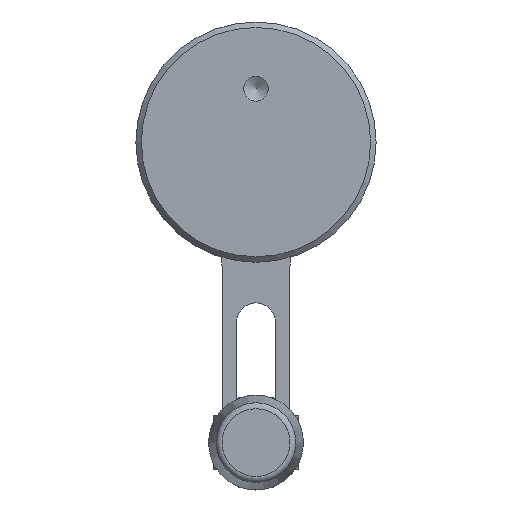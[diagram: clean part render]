
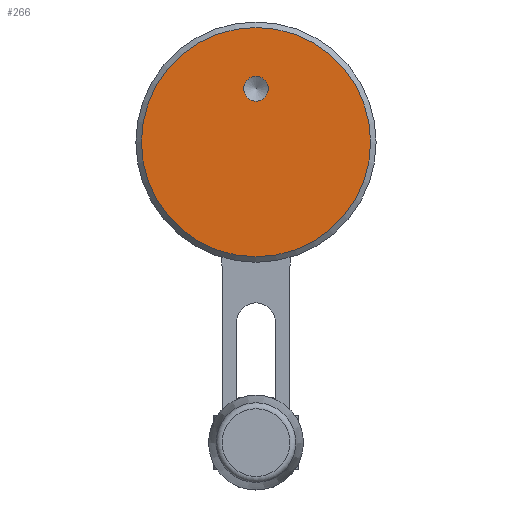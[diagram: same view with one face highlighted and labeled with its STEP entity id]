
A CAD part, front view. The second image highlights one B-rep face of the part: STEP entity #266.
In plain terms, the highlighted planar face has unit normal (0, -1, 0).
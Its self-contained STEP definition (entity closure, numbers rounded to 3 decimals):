
#266 = ADVANCED_FACE( '', ( #561, #562 ), #563, .F. );
#561 = FACE_BOUND( '', #943, .T. );
#562 = FACE_OUTER_BOUND( '', #944, .T. );
#563 = PLANE( '', #945 );
#943 = EDGE_LOOP( '', ( #1418 ) );
#944 = EDGE_LOOP( '', ( #1419 ) );
#945 = AXIS2_PLACEMENT_3D( '', #1420, #1421, #1422 );
#1418 = ORIENTED_EDGE( '', *, *, #2221, .T. );
#1419 = ORIENTED_EDGE( '', *, *, #2222, .T. );
#1420 = CARTESIAN_POINT( '', ( 19.08, 0., 0. ) );
#1421 = DIRECTION( '', ( 0., 1., 0. ) );
#1422 = DIRECTION( '', ( 0., 0., 1. ) );
#2221 = EDGE_CURVE( '', #2623, #2623, #2624, .T. );
#2222 = EDGE_CURVE( '', #2625, #2625, #2626, .T. );
#2623 = VERTEX_POINT( '', #3235 );
#2624 = CIRCLE( '', #3236, 2.067 );
#2625 = VERTEX_POINT( '', #3237 );
#2626 = CIRCLE( '', #3238, 19.08 );
#3235 = CARTESIAN_POINT( '', ( 0., 0., 10.967 ) );
#3236 = AXIS2_PLACEMENT_3D( '', #3884, #3885, #3886 );
#3237 = CARTESIAN_POINT( '', ( 0., 0., -19.08 ) );
#3238 = AXIS2_PLACEMENT_3D( '', #3887, #3888, #3889 );
#3884 = CARTESIAN_POINT( '', ( 0., 0., 8.9 ) );
#3885 = DIRECTION( '', ( 0., 1., 0. ) );
#3886 = DIRECTION( '', ( 0., 0., 1. ) );
#3887 = CARTESIAN_POINT( '', ( 0., 0., 0. ) );
#3888 = DIRECTION( '', ( 0., -1., 0. ) );
#3889 = DIRECTION( '', ( 0., 0., -1. ) );
